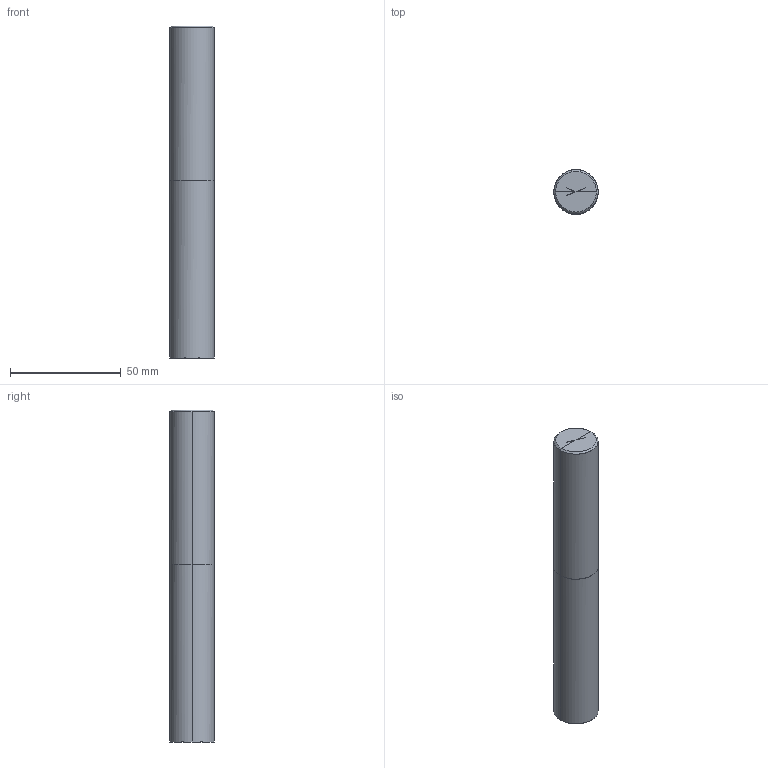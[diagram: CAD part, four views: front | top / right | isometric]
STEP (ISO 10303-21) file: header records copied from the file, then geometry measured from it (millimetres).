
FILE_DESCRIPTION(/* description */ (''),/* implementation_level */ '2;1');
FILE_NAME(/*name*/ '3201-20',/*time_stamp*/'2021-4-13T12:53:48',/*author*/ ('ISBE GmbH'),/*organization*/ ('ISBE GmbH'),/*preprocessor_version*/ 'STEP IO v1.0',/*originating_system*/ '',/*authorisation*/ '');
FILE_SCHEMA (('AUTOMOTIVE_DESIGN'));
Length unit declared in the file: millimetre
Products named in the file (1): Document
Bounding box: 20 x 19.97 x 150 mm (x, y, z)
Surface area: 10666.1 mm2 (no closed solid volume)
Topology: 0 solids, 14 shells, 14 faces, 59 edges, 54 vertices
Faces by surface type: bspline 14
Entity records: 2863 total; most frequent: CARTESIAN_POINT 2594, VERTEX_POINT 48, EDGE_CURVE 48, ORIENTED_EDGE 48, DIRECTION 16, EDGE_LOOP 14, FACE_OUTER_BOUND 14, ADVANCED_FACE 14
